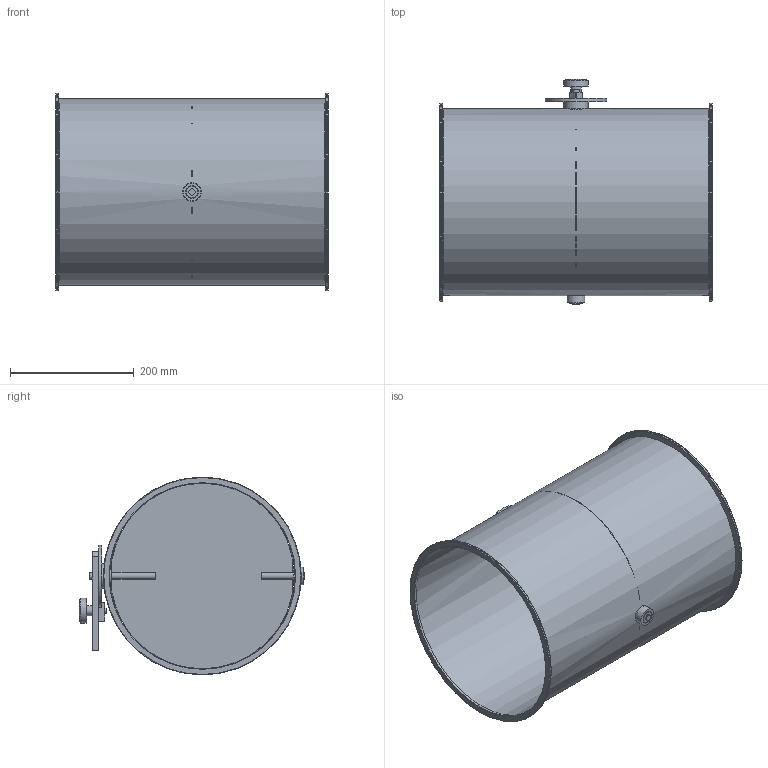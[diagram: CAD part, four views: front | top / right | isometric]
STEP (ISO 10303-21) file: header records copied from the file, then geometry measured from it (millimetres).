
FILE_DESCRIPTION(/* description */ (''),/* implementation_level */ '2;1');
FILE_NAME(/* name */ 'METU_Drosselklappe_Flansch_verzinkt_EA105-80B__300_L440_handbetaetigt.stp',/* time_stamp */ '2022-04-22T14:49:00+02:00',/* author */ (''),/* organization */ (''),/* preprocessor_version */ 'ST-DEVELOPER v11',/* originating_system */ 'SIEMENS UGS NX 6.0',/* authorisation */ '');
FILE_SCHEMA (('CONFIG_CONTROL_DESIGN'));
Length unit declared in the file: millimetre
Products named in the file (1): d.ga332Aq99k
Bounding box: 440 x 365.31 x 320 mm (x, y, z)
Volume: 613617.2 mm3; surface area: 1057687.8 mm2
Topology: 12 solids, 12 shells, 85 faces, 172 edges, 116 vertices
Faces by surface type: plane 40, cylinder 35, torus 6, sphere 2, cone 2
Full cylindrical faces by diameter (mm): 4.4 x5, 6.8 x1, 8 x1, 9 x1, 10 x5, 16.5 x1, 19 x3, 19.85 x2, 20 x2, 29 x1, 30 x2, 35 x1, 39 x1, 40 x1, 100 x1, 300 x1, 301.6 x1, 320 x2
Entity records: 2112 total; most frequent: CARTESIAN_POINT 374, DIRECTION 358, ORIENTED_EDGE 236, EDGE_LOOP 162, AXIS2_PLACEMENT_3D 158, FACE_BOUND 140, EDGE_CURVE 118, VERTEX_POINT 102
